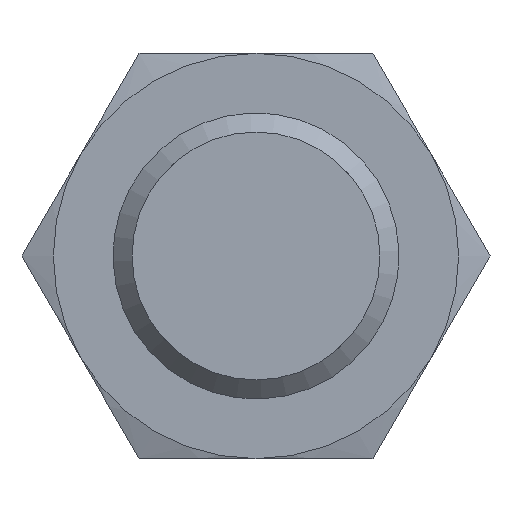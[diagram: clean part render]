
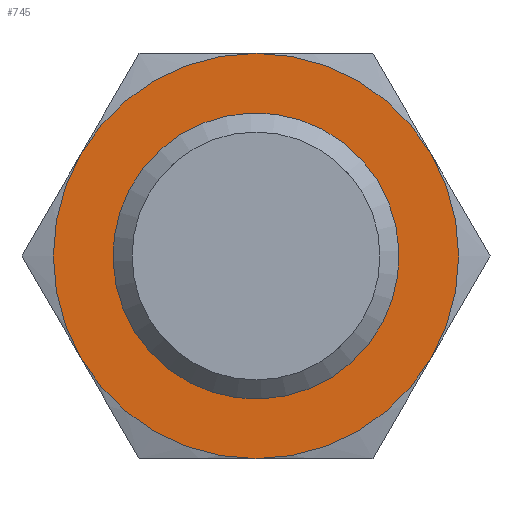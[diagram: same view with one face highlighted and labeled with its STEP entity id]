
A CAD part, front view. The second image highlights one B-rep face of the part: STEP entity #745.
In plain terms, the highlighted planar face has unit normal (0, -1, 0).
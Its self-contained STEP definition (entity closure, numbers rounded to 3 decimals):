
#171=FACE_OUTER_BOUND('',#223,.T.);
#223=EDGE_LOOP('',(#557,#558,#559,#560,#561,#562));
#265=CIRCLE('',#844,8.5);
#266=CIRCLE('',#845,8.5);
#267=CIRCLE('',#846,8.5);
#268=CIRCLE('',#847,8.5);
#269=CIRCLE('',#848,8.5);
#270=CIRCLE('',#849,8.5);
#311=VERTEX_POINT('',#1242);
#312=VERTEX_POINT('',#1243);
#313=VERTEX_POINT('',#1245);
#314=VERTEX_POINT('',#1247);
#315=VERTEX_POINT('',#1249);
#316=VERTEX_POINT('',#1251);
#395=EDGE_CURVE('',#311,#312,#265,.T.);
#396=EDGE_CURVE('',#312,#313,#266,.T.);
#397=EDGE_CURVE('',#313,#314,#267,.T.);
#398=EDGE_CURVE('',#314,#315,#268,.T.);
#399=EDGE_CURVE('',#315,#316,#269,.T.);
#400=EDGE_CURVE('',#316,#311,#270,.T.);
#557=ORIENTED_EDGE('',*,*,#395,.T.);
#558=ORIENTED_EDGE('',*,*,#396,.T.);
#559=ORIENTED_EDGE('',*,*,#397,.T.);
#560=ORIENTED_EDGE('',*,*,#398,.T.);
#561=ORIENTED_EDGE('',*,*,#399,.T.);
#562=ORIENTED_EDGE('',*,*,#400,.T.);
#652=PLANE('',#843);
#745=ADVANCED_FACE('',(#171),#652,.T.);
#843=AXIS2_PLACEMENT_3D('',#1241,#997,#998);
#844=AXIS2_PLACEMENT_3D('',#1244,#999,#1000);
#845=AXIS2_PLACEMENT_3D('',#1246,#1001,#1002);
#846=AXIS2_PLACEMENT_3D('',#1248,#1003,#1004);
#847=AXIS2_PLACEMENT_3D('',#1250,#1005,#1006);
#848=AXIS2_PLACEMENT_3D('',#1252,#1007,#1008);
#849=AXIS2_PLACEMENT_3D('',#1253,#1009,#1010);
#997=DIRECTION('center_axis',(0.,-1.,0.));
#998=DIRECTION('ref_axis',(0.,0.,-1.));
#999=DIRECTION('center_axis',(0.,-1.,0.));
#1000=DIRECTION('ref_axis',(-1.,0.,0.));
#1001=DIRECTION('center_axis',(0.,-1.,0.));
#1002=DIRECTION('ref_axis',(-1.,0.,0.));
#1003=DIRECTION('center_axis',(0.,-1.,0.));
#1004=DIRECTION('ref_axis',(-1.,0.,0.));
#1005=DIRECTION('center_axis',(0.,-1.,0.));
#1006=DIRECTION('ref_axis',(-1.,0.,0.));
#1007=DIRECTION('center_axis',(0.,-1.,0.));
#1008=DIRECTION('ref_axis',(-1.,0.,0.));
#1009=DIRECTION('center_axis',(0.,-1.,0.));
#1010=DIRECTION('ref_axis',(-1.,0.,0.));
#1241=CARTESIAN_POINT('Origin',(0.,-20.75,
0.));
#1242=CARTESIAN_POINT('',(0.,-20.75,-8.5));
#1243=CARTESIAN_POINT('',(7.361,-20.75,-4.25));
#1244=CARTESIAN_POINT('Origin',(0.,-20.75,
0.));
#1245=CARTESIAN_POINT('',(7.361,-20.75,4.25));
#1246=CARTESIAN_POINT('Origin',(0.,-20.75,
0.));
#1247=CARTESIAN_POINT('',(0.,-20.75,8.5));
#1248=CARTESIAN_POINT('Origin',(0.,-20.75,
0.));
#1249=CARTESIAN_POINT('',(-7.361,-20.75,4.25));
#1250=CARTESIAN_POINT('Origin',(0.,-20.75,
0.));
#1251=CARTESIAN_POINT('',(-7.361,-20.75,-4.25));
#1252=CARTESIAN_POINT('Origin',(0.,-20.75,
0.));
#1253=CARTESIAN_POINT('Origin',(0.,-20.75,
0.));
